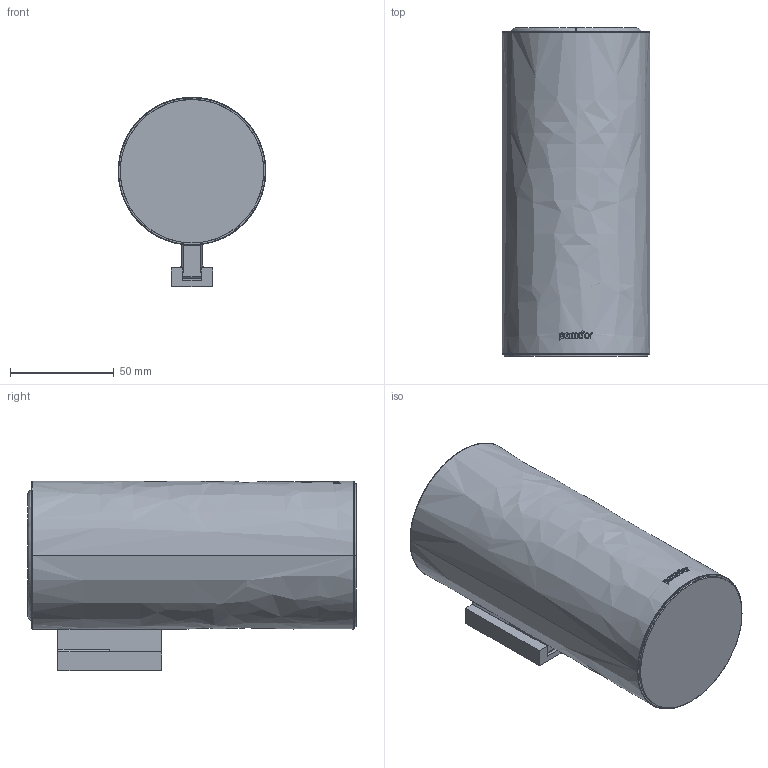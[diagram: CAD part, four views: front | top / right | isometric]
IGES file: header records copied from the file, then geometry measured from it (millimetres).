
Start section: SolidWorks IGES file using analytic representation for surfaces
Global section: file name: G:\Projects\New project\For Marketing\IGS\IGS\2015-12-11\477001002VW.IGS; native system: SolidWorks 2010; preprocessor: SolidWorks 2010; author: weijuan; date: 151210.114011; units: inch
Bounding box: 71 x 158 x 91 mm (x, y, z)
Surface area: 109107.6 mm2 (no closed solid volume)
Topology: 0 solids, 0 shells, 104 faces, 1179 edges, 1179 vertices
Faces by surface type: bspline 62, revolution 42
